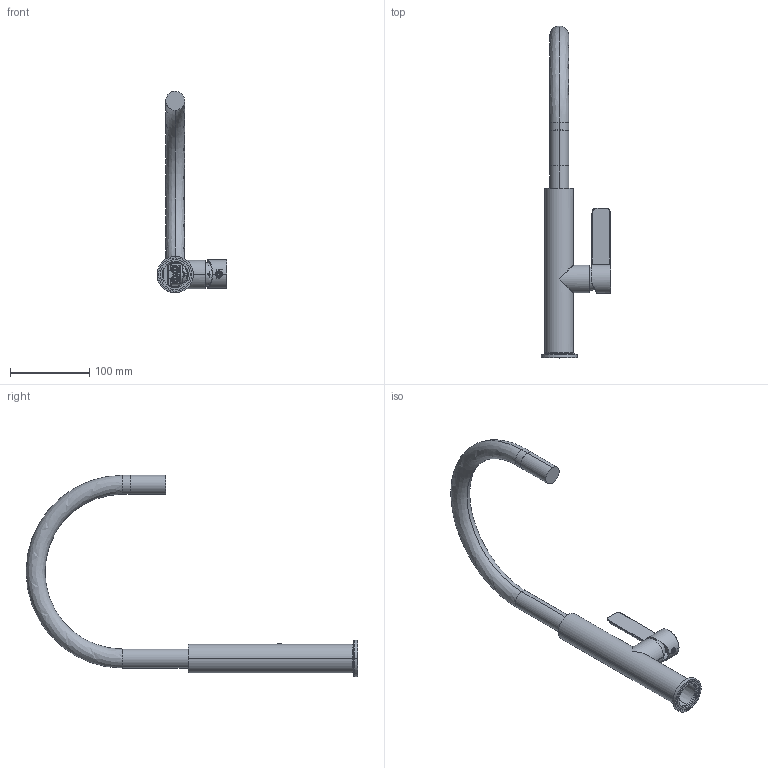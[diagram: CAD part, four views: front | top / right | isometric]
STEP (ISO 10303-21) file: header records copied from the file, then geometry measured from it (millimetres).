
FILE_DESCRIPTION((''),'2;1');
FILE_NAME('FREGADERO_REFLE_ASM','2020-03-10T',('amartinez'),(''),'PRO/ENGINEER BY PARAMETRIC TECHNOLOGY CORPORATION, 2010180','PRO/ENGINEER BY PARAMETRIC TECHNOLOGY CORPORATION, 2010180','');
FILE_SCHEMA(('CONFIG_CONTROL_DESIGN'));
Products named in the file (26): 717FREGADERO_1; M25-WK_7; M25-XZ_6; M25-BS_6; M25-BSXZ_ASM_6_ASM_ASM; M25-TC_6; M25DLL-SC_6; M25DLL-PD_11; M25DLL-NM_6; M25DLL-XC_6; PRT0003_2; M25PJ-DLL_ASM_12_ASM_ASM; 28-GUAN_19; D30-2-YG_6; PRT0002_5; TJ-OJ02_5; 623508_ED-00_4_2; 14-5X2_1_2; 16X1-5_1_2; 634115_1_2; TJ20_ASM_4_ASM_2_ASM_ASM; ZU_ASM_8_ASM_ASM; 722418_9; M28HK_ASM_ASM; CANO; FREGADERO_REFLE_ASM
Assembly tree (28 placements, depth 6):
  FREGADERO_REFLE_ASM
    M28HK_ASM_ASM
      ZU_ASM_8_ASM_ASM
        717FREGADERO_1
        M25PJ-DLL_ASM_12_ASM_ASM
          M25-WK_7
          M25-BSXZ_ASM_6_ASM_ASM
            M25-XZ_6
            M25-BS_6
          M25-TC_6
          M25DLL-SC_6
          M25DLL-PD_11
          M25DLL-NM_6
          M25DLL-XC_6
          PRT0003_2
        28-GUAN_19
        D30-2-YG_6
        PRT0002_5
        TJ-OJ02_5  x2
        TJ20_ASM_4_ASM_2_ASM_ASM
          623508_ED-00_4_2
          14-5X2_1_2  x3
          16X1-5_1_2
          634115_1_2
      722418_9
    CANO
Bounding box: 88.5 x 420 x 255 mm (x, y, z)
Volume: 372255.5 mm3; surface area: 137300.5 mm2
Topology: 23 solids, 23 shells, 1593 faces, 4406 edges, 2896 vertices
Faces by surface type: cylinder 648, plane 522, torus 218, cone 104, bspline 86, sphere 13, revolution 2
Entity records: 64421 total; most frequent: CARTESIAN_POINT 22880, DIRECTION 8863, ORIENTED_EDGE 8740, EDGE_CURVE 4370, AXIS2_PLACEMENT_3D 3533, VERTEX_POINT 2884, CIRCLE 1960, VECTOR 1795
